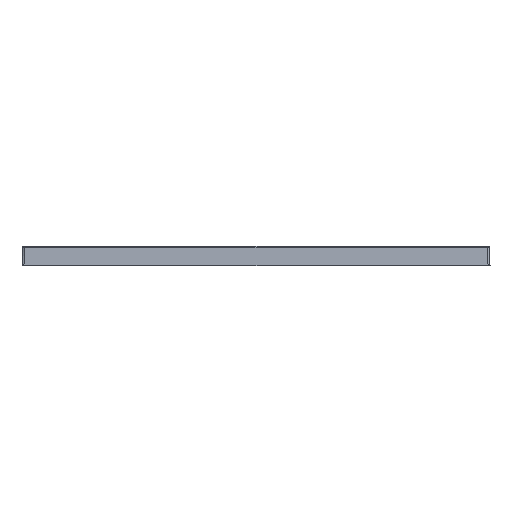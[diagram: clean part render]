
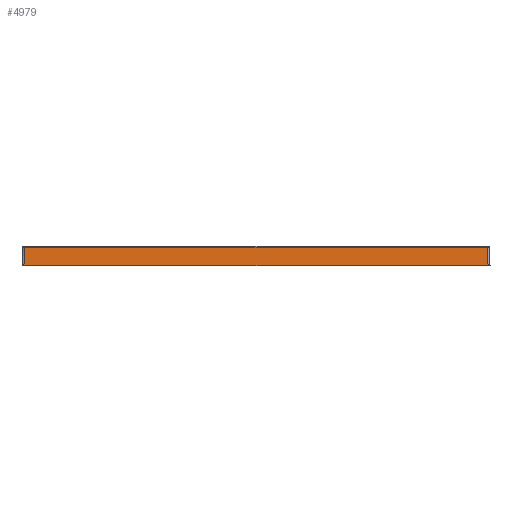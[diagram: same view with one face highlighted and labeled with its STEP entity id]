
A CAD part, front view. The second image highlights one B-rep face of the part: STEP entity #4979.
In plain terms, the highlighted planar face has unit normal (0, -0.999, 0.035).
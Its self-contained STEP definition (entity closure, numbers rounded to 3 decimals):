
#2866=CARTESIAN_POINT('',(-592.341,-447.338,-2.407));
#2867=VERTEX_POINT('',#2866);
#2992=CARTESIAN_POINT('',(592.341,-447.338,-2.415));
#2993=VERTEX_POINT('',#2992);
#2994=CARTESIAN_POINT('',(-592.341,-447.338,-2.407));
#2995=CARTESIAN_POINT('',(-567.761,-447.337,-2.391));
#2996=CARTESIAN_POINT('',(-542.282,-447.339,-2.43));
#2997=CARTESIAN_POINT('',(-516.01,-447.339,-2.444));
#2998=CARTESIAN_POINT('',(-515.421,-447.339,-2.444));
#2999=CARTESIAN_POINT('',(-514.831,-447.339,-2.444));
#3000=CARTESIAN_POINT('',(-514.241,-447.339,-2.445));
#3001=CARTESIAN_POINT('',(-487.03,-447.34,-2.458));
#3002=CARTESIAN_POINT('',(-458.97,-447.339,-2.444));
#3003=CARTESIAN_POINT('',(-430.147,-447.339,-2.438));
#3004=CARTESIAN_POINT('',(-429.611,-447.339,-2.438));
#3005=CARTESIAN_POINT('',(-429.074,-447.339,-2.438));
#3006=CARTESIAN_POINT('',(-428.537,-447.339,-2.438));
#3007=CARTESIAN_POINT('',(-398.643,-447.339,-2.432));
#3008=CARTESIAN_POINT('',(-367.929,-447.339,-2.435));
#3009=CARTESIAN_POINT('',(-336.413,-447.339,-2.445));
#3010=CARTESIAN_POINT('',(-335.946,-447.339,-2.445));
#3011=CARTESIAN_POINT('',(-335.479,-447.339,-2.445));
#3012=CARTESIAN_POINT('',(-335.012,-447.339,-2.445));
#3013=CARTESIAN_POINT('',(-302.241,-447.34,-2.455));
#3014=CARTESIAN_POINT('',(-268.61,-447.34,-2.471));
#3015=CARTESIAN_POINT('',(-234.276,-447.341,-2.489));
#3016=CARTESIAN_POINT('',(-233.898,-447.341,-2.489));
#3017=CARTESIAN_POINT('',(-233.52,-447.341,-2.489));
#3018=CARTESIAN_POINT('',(-233.141,-447.341,-2.489));
#3019=CARTESIAN_POINT('',(-197.414,-447.342,-2.508));
#3020=CARTESIAN_POINT('',(-160.918,-447.342,-2.528));
#3021=CARTESIAN_POINT('',(-123.588,-447.343,-2.54));
#3022=CARTESIAN_POINT('',(-123.317,-447.343,-2.54));
#3023=CARTESIAN_POINT('',(-123.045,-447.343,-2.54));
#3024=CARTESIAN_POINT('',(-122.774,-447.343,-2.54));
#3025=CARTESIAN_POINT('',(-83.687,-447.343,-2.553));
#3026=CARTESIAN_POINT('',(-43.692,-447.343,-2.558));
#3027=CARTESIAN_POINT('',(-2.899,-447.343,-2.558));
#3028=CARTESIAN_POINT('',(-2.756,-447.343,-2.558));
#3029=CARTESIAN_POINT('',(-2.613,-447.343,-2.558));
#3030=CARTESIAN_POINT('',(-2.47,-447.343,-2.558));
#3031=CARTESIAN_POINT('',(40.345,-447.343,-2.557));
#3032=CARTESIAN_POINT('',(84.038,-447.343,-2.551));
#3033=CARTESIAN_POINT('',(128.458,-447.343,-2.544));
#3034=CARTESIAN_POINT('',(128.469,-447.343,-2.544));
#3035=CARTESIAN_POINT('',(128.479,-447.343,-2.544));
#3036=CARTESIAN_POINT('',(128.489,-447.343,-2.544));
#3037=CARTESIAN_POINT('',(174.943,-447.343,-2.536));
#3038=CARTESIAN_POINT('',(222.195,-447.342,-2.527));
#3039=CARTESIAN_POINT('',(270.15,-447.342,-2.525));
#3040=CARTESIAN_POINT('',(270.34,-447.342,-2.525));
#3041=CARTESIAN_POINT('',(270.53,-447.342,-2.525));
#3042=CARTESIAN_POINT('',(270.721,-447.342,-2.525));
#3043=CARTESIAN_POINT('',(320.921,-447.342,-2.522));
#3044=CARTESIAN_POINT('',(371.904,-447.342,-2.526));
#3045=CARTESIAN_POINT('',(423.779,-447.341,-2.506));
#3046=CARTESIAN_POINT('',(424.182,-447.341,-2.506));
#3047=CARTESIAN_POINT('',(424.586,-447.341,-2.505));
#3048=CARTESIAN_POINT('',(424.989,-447.341,-2.505));
#3049=CARTESIAN_POINT('',(479.9,-447.341,-2.483));
#3050=CARTESIAN_POINT('',(535.778,-447.339,-2.436));
#3051=CARTESIAN_POINT('',(592.341,-447.338,-2.415));
#3052=B_SPLINE_CURVE_WITH_KNOTS('',3,(#2994,#2995,#2996,#2997,#2998,#2999,#3000,#3001,#3002,#3003,#3004,#3005,#3006,#3007,#3008,#3009,#3010,#3011,#3012,#3013,#3014,#3015,#3016,#3017,#3018,#3019,#3020,#3021,#3022,#3023,#3024,#3025,#3026,#3027,#3028,#3029,#3030,#3031,#3032,#3033,#3034,#3035,#3036,#3037,#3038,#3039,#3040,#3041,#3042,#3043,#3044,#3045,#3046,#3047,#3048,#3049,#3050,#3051),.UNSPECIFIED.,.F.,.U.,(4,3,3,3,3,3,3,3,3,3,3,3,3,3,3,3,3,3,3,4),(0.0,138.792,141.905,285.463,288.135,436.88,439.082,593.636,595.338,756.095,757.262,925.528,926.118,1102.7,1102.741,1287.404,1288.137,1481.422,1482.925,1687.469),.UNSPECIFIED.);
#3053=EDGE_CURVE('',#2867,#2993,#3052,.T.);
#4937=CARTESIAN_POINT('',(-594.003,-449.,-50.0));
#4938=VERTEX_POINT('',#4937);
#4946=CARTESIAN_POINT('',(-592.341,-447.338,-2.407));
#4947=DIRECTION('',(-0.035,-0.035,-0.999));
#4948=VECTOR('',#4947,47.651);
#4949=LINE('',#4946,#4948);
#4950=EDGE_CURVE('',#2867,#4938,#4949,.T.);
#4956=CARTESIAN_POINT('',(-601.66,-449.,-50.0));
#4957=DIRECTION('',(0.0,-0.999,0.035));
#4958=DIRECTION('',(0.0,-0.035,-0.999));
#4959=AXIS2_PLACEMENT_3D('',#4956,#4957,#4958);
#4960=PLANE('',#4959);
#4961=ORIENTED_EDGE('',*,*,#4950,.T.);
#4962=CARTESIAN_POINT('',(594.003,-449.,-50.0));
#4963=VERTEX_POINT('',#4962);
#4964=CARTESIAN_POINT('',(-594.003,-449.,-50.0));
#4965=DIRECTION('',(1.0,0.0,0.0));
#4966=VECTOR('',#4965,1188.006);
#4967=LINE('',#4964,#4966);
#4968=EDGE_CURVE('',#4938,#4963,#4967,.T.);
#4969=ORIENTED_EDGE('',*,*,#4968,.T.);
#4970=CARTESIAN_POINT('',(592.341,-447.338,-2.415));
#4971=DIRECTION('',(0.035,-0.035,-0.999));
#4972=VECTOR('',#4971,47.643);
#4973=LINE('',#4970,#4972);
#4974=EDGE_CURVE('',#2993,#4963,#4973,.T.);
#4975=ORIENTED_EDGE('',*,*,#4974,.F.);
#4976=ORIENTED_EDGE('',*,*,#3053,.F.);
#4977=EDGE_LOOP('',(#4961,#4969,#4975,#4976));
#4978=FACE_OUTER_BOUND('',#4977,.T.);
#4979=ADVANCED_FACE('',(#4978),#4960,.T.);
